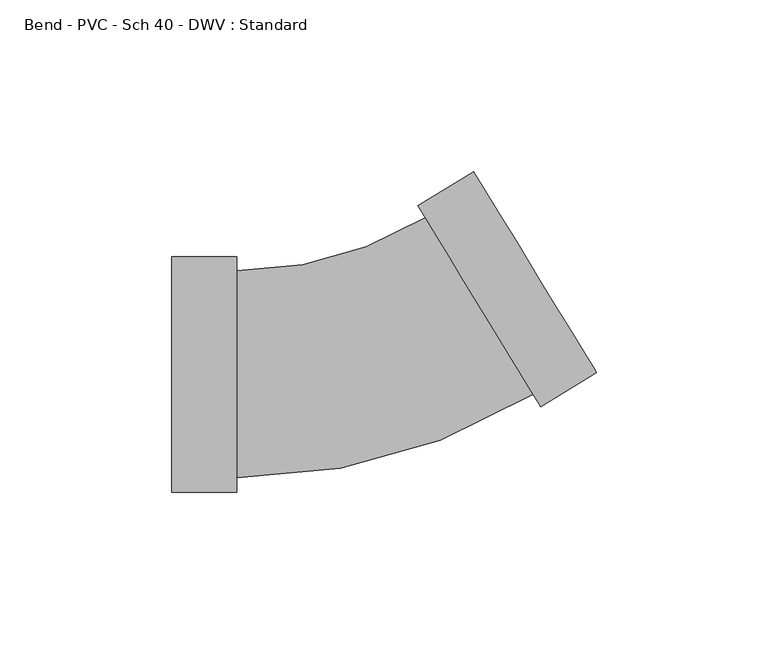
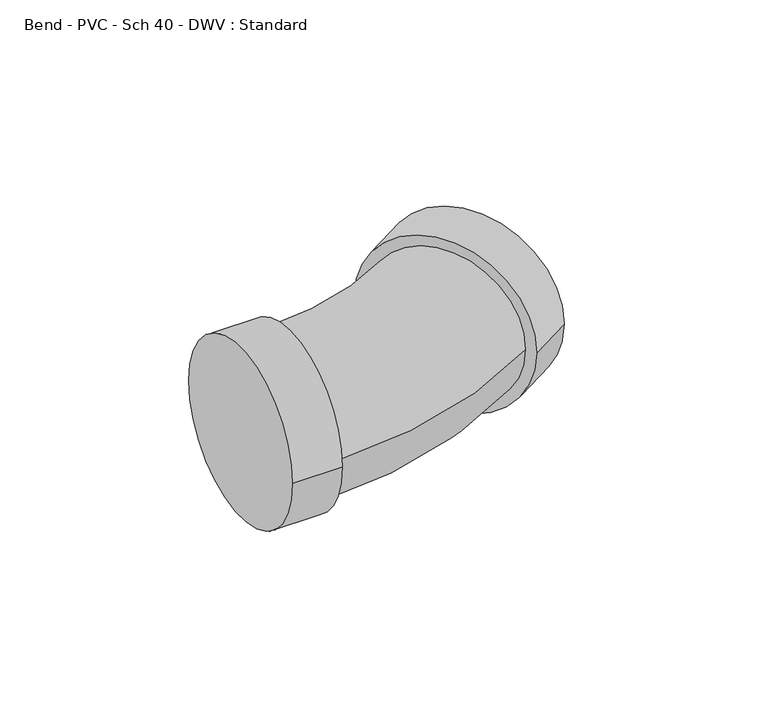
"""IFC4 building model written with IfcOpenShell, lengths in millimetres: pipe fitting geometry, Bend - PVC - Sch 40 - DWV : Standard."""

import ifcopenshell
import ifcopenshell.guid

model = None  # the IFC model being written
_history = None  # IfcOwnerHistory: only IFC2X3 demands one
_inside = {}  # id of a spatial element -> (the spatial element, [elements in it])
_under = {}  # id of a project, library or spatial element -> (it, [spatial elements below it])
_declared = {}  # id of a project -> (the project, [libraries it declares])
_typed = {}  # id of a type object -> (the type object, [elements of that type])
_made_of = {}  # id of a material, layer set ... -> (it, [elements and type objects made of it])


def new_model(schema):
    """Start an empty IFC model of exactly this schema.

    Asked for "IFC4X3", IfcOpenShell would pick the latest addendum, in which some entities
    have other attributes; the version numbers below select the first issue.
    IFC2X3 requires an IfcOwnerHistory on every rooted entity: one is made here for all.
    """
    global model, _history
    if schema == "IFC4X3":
        model = ifcopenshell.file(schema_version=(4, 3, 0, 0))
    else:
        model = ifcopenshell.file(schema=schema)
    _inside.clear()
    _under.clear()
    _declared.clear()
    _typed.clear()
    _made_of.clear()
    _history = None
    if model.schema == "IFC2X3":
        org = make("IfcOrganization", Name="unknown")
        user = make(
            "IfcPersonAndOrganization",
            ThePerson=make("IfcPerson", FamilyName="unknown"),
            TheOrganization=org,
        )
        app = make(
            "IfcApplication",
            ApplicationDeveloper=org,
            Version="unknown",
            ApplicationFullName="unknown",
            ApplicationIdentifier="unknown",
        )
        _history = make(
            "IfcOwnerHistory",
            OwningUser=user,
            OwningApplication=app,
            ChangeAction="ADDED",
            CreationDate=0,
        )
    return model


def make(cls, **values):
    """One entity of the class cls with the attributes given. An attribute that is None is left unset."""
    return model.create_entity(
        cls, **{name: value for name, value in values.items() if value is not None}
    )


def rooted(cls, **values):
    """An entity with a GlobalId (a new one), such as an element, a storey or a relation."""
    return make(cls, GlobalId=ifcopenshell.guid.new(), OwnerHistory=_history, **values)


def si_unit(unit_type, name, prefix=None):
    """IfcSIUnit, for example si_unit("LENGTHUNIT", "METRE", prefix="MILLI")."""
    return make("IfcSIUnit", UnitType=unit_type, Prefix=prefix, Name=name)


def assignment(units):
    """IfcUnitAssignment: the units of a project."""
    return None if units is None else make("IfcUnitAssignment", Units=units)


def point(xyz):
    """IfcCartesianPoint."""
    return None if xyz is None else make("IfcCartesianPoint", Coordinates=xyz)


def direction(xyz):
    """IfcDirection."""
    return None if xyz is None else make("IfcDirection", DirectionRatios=xyz)


def frame(location, z_axis=None, x_axis=None):
    """IfcAxis2Placement3D, a coordinate frame: its origin and axes. An axis left out is left unset."""
    return make(
        "IfcAxis2Placement3D",
        Location=point(location),
        Axis=direction(z_axis),
        RefDirection=direction(x_axis),
    )


def origin():
    """The frame at (0, 0, 0) with its axes left unset."""
    return frame((0.0, 0.0, 0.0))


def place(relative_to, where):
    """IfcLocalPlacement: puts the frame where relative to a parent placement (None: the world)."""
    return make(
        "IfcLocalPlacement", PlacementRelTo=relative_to, RelativePlacement=where
    )


def context(
    kind, dimensions, precision=None, world=None, true_north=None, identifier=None
):
    """IfcGeometricRepresentationContext, for example the 3D "Model" context."""
    return make(
        "IfcGeometricRepresentationContext",
        ContextIdentifier=identifier,
        ContextType=kind,
        CoordinateSpaceDimension=dimensions,
        Precision=precision,
        WorldCoordinateSystem=world,
        TrueNorth=true_north,
    )


def project(units=None, contexts=None):
    """IfcProject with its units and contexts."""
    return rooted(
        "IfcProject",
        Name="project",
        RepresentationContexts=contexts,
        UnitsInContext=assignment(units),
    )


def spatial(cls, under=None, at=None, **own):
    """A site, building, storey or space (cls), placed at a placement, below another one or the project."""
    s = rooted(cls, ObjectPlacement=at, **own)
    if under is not None:
        _under.setdefault(under.id(), (under, []))[1].append(s)
    return s


def circle_curve(where, radius):
    """IfcCircle in the frame where."""
    return make("IfcCircle", Position=where, Radius=radius)


def ellipse_curve(where, semi_axis1, semi_axis2):
    """IfcEllipse in the frame where."""
    return make(
        "IfcEllipse", Position=where, SemiAxis1=semi_axis1, SemiAxis2=semi_axis2
    )


def trimmed(basis, trim1, trim2, sense, master):
    """IfcTrimmedCurve: the piece of a basis curve between two trims."""
    return make(
        "IfcTrimmedCurve",
        BasisCurve=basis,
        Trim1=trim1,
        Trim2=trim2,
        SenseAgreement=sense,
        MasterRepresentation=master,
    )


def shape(context_of_items, identifier, shape_type, items):
    """IfcShapeRepresentation: the items that make up one representation, for example the "Body"."""
    return make(
        "IfcShapeRepresentation",
        ContextOfItems=context_of_items,
        RepresentationIdentifier=identifier,
        RepresentationType=shape_type,
        Items=items,
    )


def source(mapping_origin, context_of_items, identifier, shape_type, items):
    """IfcRepresentationMap: a shape defined once, which mapped items show again and again."""
    return make(
        "IfcRepresentationMap",
        MappingOrigin=mapping_origin,
        MappedRepresentation=shape(context_of_items, identifier, shape_type, items),
    )


def transform(
    local_origin,
    x_axis=None,
    y_axis=None,
    z_axis=None,
    scale=None,
    scale2=None,
    scale3=None,
    uniform=True,
):
    """IfcCartesianTransformationOperator3D, or its non-uniform kind. x_axis, y_axis, z_axis: its Axis1, 2, 3."""
    if uniform:
        return make(
            "IfcCartesianTransformationOperator3D",
            Axis1=direction(x_axis),
            Axis2=direction(y_axis),
            LocalOrigin=point(local_origin),
            Scale=scale,
            Axis3=direction(z_axis),
        )
    return make(
        "IfcCartesianTransformationOperator3DnonUniform",
        Axis1=direction(x_axis),
        Axis2=direction(y_axis),
        LocalOrigin=point(local_origin),
        Scale=scale,
        Axis3=direction(z_axis),
        Scale2=scale2,
        Scale3=scale3,
    )


def mapped(mapping_source, mapping_target):
    """IfcMappedItem: shows the shape of a source again, moved by a transform."""
    return make(
        "IfcMappedItem", MappingSource=mapping_source, MappingTarget=mapping_target
    )


def made_of(thing, what):
    """Note that an element or type object is made of a material, layer set ...; save() writes the relation."""
    if what is not None:
        _made_of.setdefault(what.id(), (what, []))[1].append(thing)
    return thing


def element(
    cls,
    number,
    at=None,
    inside=None,
    cuts=None,
    type_object=None,
    material=None,
    context=None,
    identifier="Body",
    shape_type=None,
    held_by="IfcProductDefinitionShape",
    body=None,
    shapes=None,
    **own,
):
    """One element of the class cls, such as IfcWall. Its Tag is "e" and its number.

    at: its placement. inside: the storey or other place that contains it. cuts: it is an
    opening in that element (IfcRelVoidsElement). A single representation is given by context,
    identifier, shape_type and body (its items); several are given by shapes. held_by: the class
    of the entity that holds the representations. save() writes the other relations.
    """
    e = rooted(cls, Tag="e%d" % number, ObjectPlacement=at, **own)
    if body is not None:
        shapes = [shape(context, identifier, shape_type, body)]
    if shapes is not None:
        e.Representation = make(held_by, Representations=shapes)
    if inside is not None:
        _inside.setdefault(inside.id(), (inside, []))[1].append(e)
    if cuts is not None:
        rooted(
            "IfcRelVoidsElement", RelatingBuildingElement=cuts, RelatedOpeningElement=e
        )
    if type_object is not None:
        _typed.setdefault(type_object.id(), (type_object, []))[1].append(e)
    return made_of(e, material)


def aggregate(whole, parts):
    """IfcRelAggregates: a whole, such as a stair, and the parts it consists of."""
    return rooted("IfcRelAggregates", RelatingObject=whole, RelatedObjects=parts)


def save(model, path):
    """Write the relations noted so far, then the file.

    IfcRelAggregates (storeys below a building ...), IfcRelContainedInSpatialStructure (elements
    in a storey), IfcRelDefinesByType, IfcRelAssociatesMaterial and IfcRelDeclares: one each for
    every whole, place, type object, material and project.
    """
    for whole, parts in _under.values():
        aggregate(whole, parts)
    for where, things in _inside.values():
        rooted(
            "IfcRelContainedInSpatialStructure",
            RelatedElements=things,
            RelatingStructure=where,
        )
    for kind, things in _typed.values():
        rooted("IfcRelDefinesByType", RelatedObjects=things, RelatingType=kind)
    for what, things in _made_of.values():
        rooted("IfcRelAssociatesMaterial", RelatedObjects=things, RelatingMaterial=what)
    for by, libraries in _declared.values():
        rooted("IfcRelDeclares", RelatingContext=by, RelatedDefinitions=libraries)
    model.write(path)


def plane_surface(at):
    """IfcPlane: the flat surface through the origin of the frame at, square to its z axis."""
    return make("IfcPlane", Position=at)


def cylinder_surface(at, radius):
    """IfcCylindricalSurface: all points at the distance radius from the z axis of the frame at."""
    return make("IfcCylindricalSurface", Position=at, Radius=radius)


def revolved_surface(curve, axis_point, axis_direction):
    """IfcSurfaceOfRevolution: the curve turned about the line through axis_point along axis_direction."""
    return make(
        "IfcSurfaceOfRevolution",
        SweptCurve=make("IfcArbitraryOpenProfileDef", ProfileType="CURVE", Curve=curve),
        AxisPosition=make("IfcAxis1Placement", Location=point(axis_point), Axis=direction(axis_direction)),
    )


def advanced_brep(points, edges, surfaces, faces):
    """IfcAdvancedBrep: a solid bounded by faces that lie on surfaces and meet in shared edges.

    An edge is (start, end): straight between two places in points (the first is 0);
    or (start, end, curve); or (start, end, curve, False) where it runs against its curve.
    A face is (place in surfaces, loops), or (place, loops, False) where it looks against
    its surface's normal. A loop lists edges by number (the first is 1), with a minus sign
    where the edge is run from its end to its start. The first loop is the outer one.
    """
    corners = [point(p) for p in points]
    vertices = [make("IfcVertexPoint", VertexGeometry=c) for c in corners]
    made = []
    for start, end, *more in edges:
        made.append(
            make(
                "IfcEdgeCurve",
                EdgeStart=vertices[start],
                EdgeEnd=vertices[end],
                EdgeGeometry=more[0] if more else make("IfcPolyline", Points=[corners[start], corners[end]]),
                SameSense=more[1] if len(more) > 1 else True,
            )
        )
    hull = []
    for where, loops, *sense in faces:
        bounds = []
        for j, loop in enumerate(loops):
            ring = [make("IfcOrientedEdge", EdgeElement=made[abs(k) - 1], Orientation=k > 0) for k in loop]
            bounds.append(
                make(
                    "IfcFaceOuterBound" if j == 0 else "IfcFaceBound",
                    Bound=make("IfcEdgeLoop", EdgeList=ring),
                    Orientation=True,
                )
            )
        hull.append(make("IfcAdvancedFace", Bounds=bounds, FaceSurface=surfaces[where], SameSense=sense[0] if sense else True))
    return make("IfcAdvancedBrep", Outer=make("IfcClosedShell", CfsFaces=hull))


def bend_pvc_sch_40_dwv_standard_d9ad1acb(model_context):
    return source(origin(), model_context, "Body", "AdvancedBrep", [
        advanced_brep(
        [(-57.15, -34.3154, 0.0), (-57.15, 34.3154, 0.0), (-38.1, -34.3154, 0.0), (-38.1, 34.3154, 0.0), (-38.1, -30.1625, 0.0), (-38.1, 30.1625, 0.0), (16.7690202, 45.6090601, 0.0), (48.239917, -5.8563485, 0.0), (50.4064398, -9.3993355, 0.0), (14.6024974, 49.1520472, 0.0), (66.658674, 0.5388424, 0.0), (30.8547317, 59.0902251, 0.0)],
        [
            (0, 1, circle_curve(frame((-57.15, 0.0, 0.0), z_axis=(-1.0, 0.0, 0.0), x_axis=(0.0, 1.0, 0.0)), 34.3154)),
            (1, 0, circle_curve(frame((-57.15, 0.0, 0.0), z_axis=(-1.0, 0.0, 0.0), x_axis=(0.0, 1.0, 0.0)), 34.3154)),
            (2, 3, circle_curve(frame((-38.1, 0.0, 0.0), z_axis=(1.0, 0.0, 0.0), x_axis=(0.0, 1.0, 0.0)), 34.3154)),
            (3, 2, circle_curve(frame((-38.1, 0.0, 0.0), z_axis=(1.0, 0.0, 0.0), x_axis=(0.0, 1.0, 0.0)), 34.3154)),
            (4, 5, circle_curve(frame((-38.1, 0.0, 0.0), z_axis=(-1.0, 0.0, 0.0), x_axis=(0.0, 1.0, 0.0)), 30.1625)),
            (5, 4, circle_curve(frame((-38.1, 0.0, 0.0), z_axis=(-1.0, 0.0, 0.0), x_axis=(0.0, 1.0, 0.0)), 30.1625)),
            (0, 2),
            (3, 1),
            (6, 5, circle_curve(frame((-38.1, 135.3382015, 0.0), z_axis=(0.0, 0.0, -1.0), x_axis=(0.0, -1.0, 0.0)), 105.1757015)),
            (4, 7, circle_curve(frame((-38.1, 135.3382015, 0.0), z_axis=(0.0, 0.0, 1.0), x_axis=(0.0, -1.0, 0.0)), 165.5007015)),
            (7, 6, circle_curve(frame((32.5044686, 19.8763558, 0.0), z_axis=(-0.853135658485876, -0.521689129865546, 0.0), x_axis=(-0.521689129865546, 0.853135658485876, 0.0)), 30.1625)),
            (6, 7, circle_curve(frame((32.5044686, 19.8763558, 0.0), z_axis=(-0.853135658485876, -0.521689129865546, 0.0), x_axis=(-0.521689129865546, 0.853135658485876, 0.0)), 30.1625)),
            (8, 9, circle_curve(frame((32.5044686, 19.8763558, 0.0), z_axis=(-0.853135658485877, -0.5216891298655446, 0.0), x_axis=(-0.5216891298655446, 0.853135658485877, 0.0)), 34.3154)),
            (9, 8, circle_curve(frame((32.5044686, 19.8763558, 0.0), z_axis=(-0.853135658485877, -0.5216891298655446, 0.0), x_axis=(-0.5216891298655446, 0.853135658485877, 0.0)), 34.3154)),
            (10, 11, circle_curve(frame((48.7567029, 29.8145338, 0.0), z_axis=(0.853135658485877, 0.5216891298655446, 0.0), x_axis=(-0.5216891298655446, 0.853135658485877, 0.0)), 34.3154)),
            (11, 10, circle_curve(frame((48.7567029, 29.8145338, 0.0), z_axis=(0.853135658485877, 0.5216891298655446, 0.0), x_axis=(-0.5216891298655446, 0.853135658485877, 0.0)), 34.3154)),
            (8, 10),
            (11, 9),
        ],
        [
            plane_surface(frame((-57.15, 0.0, 0.0), z_axis=(-1.0, 0.0, 0.0), x_axis=(0.0, 0.0, 1.0))),
            plane_surface(frame((-38.1, 0.0, 0.0), z_axis=(1.0, 0.0, 0.0), x_axis=(0.0, 0.0, 1.0))),
            cylinder_surface(frame((-57.15, 0.0, 0.0), z_axis=(-1.0, 0.0, 0.0), x_axis=(0.0, 1.0, 0.0)), 34.3154),
            revolved_surface(trimmed(ellipse_curve(frame((-38.1, 0.0, 0.0), z_axis=(-1.0, 0.0, 0.0), x_axis=(0.0, 1.0, 0.0)), 30.1625, 30.1625), [point((-38.1, -30.1625, 0.0))], [point((-38.1, 30.1625, 0.0))], True, "CARTESIAN"), (-38.1, 135.3382015, 0.0), (0.0, 0.0, 1.0)),
            revolved_surface(trimmed(ellipse_curve(frame((-38.1, 0.0, 0.0), z_axis=(-1.0, 0.0, 0.0), x_axis=(0.0, 1.0, 0.0)), 30.1625, 30.1625), [point((-38.1, 30.1625, 0.0))], [point((-38.1, -30.1625, 0.0))], True, "CARTESIAN"), (-38.1, 135.3382015, 0.0), (0.0, 0.0, 1.0)),
            plane_surface(frame((32.5044686, 19.8763558, 0.0), z_axis=(-0.853135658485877, -0.5216891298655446, 0.0), x_axis=(0.0, 0.0, 1.0))),
            plane_surface(frame((48.7567029, 29.8145338, 0.0), z_axis=(0.853135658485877, 0.5216891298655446, 0.0), x_axis=(0.0, 0.0, 1.0))),
            cylinder_surface(frame((32.5044686, 19.8763558, 0.0), z_axis=(-0.853135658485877, -0.5216891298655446, 0.0), x_axis=(-0.5216891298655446, 0.853135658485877, 0.0)), 34.3154),
        ],
        [
            (0, [[1, 2]]),
            (1, [[3, 4], [5, 6]]),
            (2, [[-1, 7, -4, 8]]),
            (2, [[-2, -8, -3, -7]]),
            (3, [[9, -5, 10, 11]]),
            (4, [[-9, 12, -10, -6]]),
            (5, [[13, 14], [-11, -12]]),
            (6, [[15, 16]]),
            (7, [[-13, 17, -16, 18]]),
            (7, [[-14, -18, -15, -17]]),
        ],
    ),
    ])


if __name__ == "__main__":
    model = new_model("IFC4")
    model_context = context("Model", 3, world=origin())
    ifc_project = project(units=[si_unit("LENGTHUNIT", "METRE", prefix="MILLI")], contexts=[model_context])
    site = spatial("IfcSite", under=ifc_project)
    building = spatial("IfcBuilding", under=site)
    placement = place(None, origin())
    bend_pvc_sch_40_dwv_standard_shape = bend_pvc_sch_40_dwv_standard_d9ad1acb(model_context)
    element("IfcPipeFitting", 1, ObjectType="Bend - PVC - Sch 40 - DWV : Standard", at=placement, inside=building, context=model_context, shape_type="MappedRepresentation", body=[
        mapped(bend_pvc_sch_40_dwv_standard_shape, transform((0.0, 0.0, 0.0), x_axis=(1.0, 0.0, 0.0), y_axis=(0.0, 1.0, 0.0), z_axis=(0.0, 0.0, 1.0))),
    ])
    save(model, "model.ifc")
